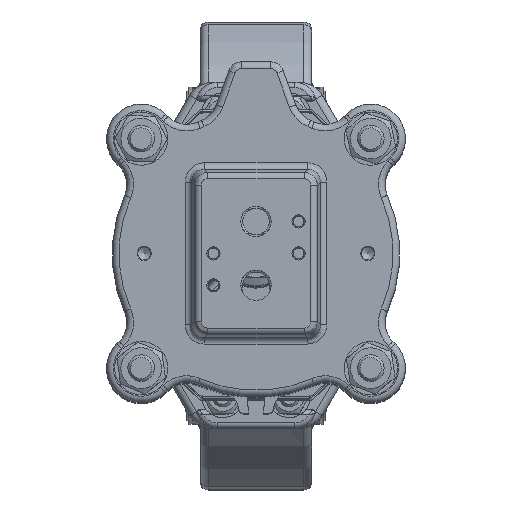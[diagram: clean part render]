
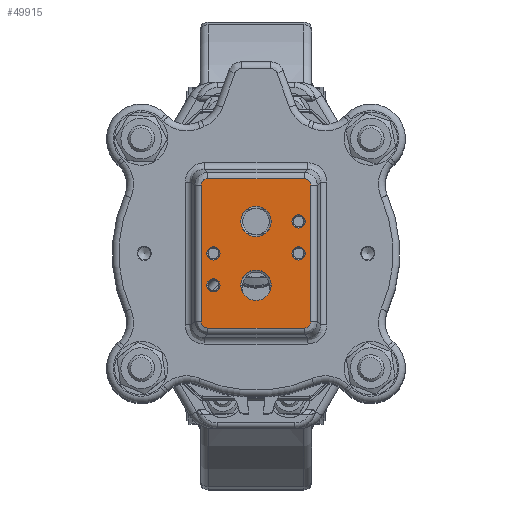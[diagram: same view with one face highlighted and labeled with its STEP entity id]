
A CAD part, top view. The second image highlights one B-rep face of the part: STEP entity #49915.
In plain terms, the highlighted planar face has unit normal (0, 0, 1).
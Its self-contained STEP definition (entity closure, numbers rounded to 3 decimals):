
#265=ELLIPSE('',#53609,2.673,2.5);
#266=ELLIPSE('',#53610,2.673,2.5);
#267=ELLIPSE('',#53611,2.673,2.5);
#268=ELLIPSE('',#53612,2.673,2.5);
#1330=FACE_BOUND('',#15067,.T.);
#1331=FACE_BOUND('',#15068,.T.);
#1332=FACE_BOUND('',#15069,.T.);
#1333=FACE_BOUND('',#15070,.T.);
#1334=FACE_BOUND('',#15071,.T.);
#1335=FACE_BOUND('',#15072,.T.);
#3273=PLANE('',#53608);
#4527=LINE('',#77597,#7776);
#4528=LINE('',#77601,#7777);
#4529=LINE('',#77605,#7778);
#4530=LINE('',#77608,#7779);
#7776=VECTOR('',#60456,10.);
#7777=VECTOR('',#60459,10.);
#7778=VECTOR('',#60462,10.);
#7779=VECTOR('',#60465,10.);
#11904=FACE_OUTER_BOUND('',#15066,.T.);
#15066=EDGE_LOOP('',(#35709,#35710,#35711,#35712,#35713,#35714,#35715,#35716));
#15067=EDGE_LOOP('',(#35717,#35718));
#15068=EDGE_LOOP('',(#35719,#35720));
#15069=EDGE_LOOP('',(#35721));
#15070=EDGE_LOOP('',(#35722));
#15071=EDGE_LOOP('',(#35723));
#15072=EDGE_LOOP('',(#35724));
#18421=CIRCLE('',#53478,5.723);
#18422=CIRCLE('',#53479,5.723);
#18424=CIRCLE('',#53482,5.723);
#18425=CIRCLE('',#53483,5.723);
#18516=CIRCLE('',#53607,2.5);
#18517=CIRCLE('',#53613,2.5);
#18518=CIRCLE('',#53614,2.5);
#18519=CIRCLE('',#53615,2.5);
#21403=VERTEX_POINT('',#76902);
#21404=VERTEX_POINT('',#76904);
#21405=VERTEX_POINT('',#76909);
#21406=VERTEX_POINT('',#76911);
#21507=VERTEX_POINT('',#77589);
#21508=VERTEX_POINT('',#77593);
#21509=VERTEX_POINT('',#77594);
#21510=VERTEX_POINT('',#77596);
#21511=VERTEX_POINT('',#77598);
#21512=VERTEX_POINT('',#77600);
#21513=VERTEX_POINT('',#77602);
#21514=VERTEX_POINT('',#77604);
#21515=VERTEX_POINT('',#77606);
#21516=VERTEX_POINT('',#77609);
#21517=VERTEX_POINT('',#77611);
#21518=VERTEX_POINT('',#77613);
#26695=EDGE_CURVE('',#21404,#21403,#18421,.T.);
#26696=EDGE_CURVE('',#21403,#21404,#18422,.T.);
#26699=EDGE_CURVE('',#21406,#21405,#18424,.T.);
#26700=EDGE_CURVE('',#21405,#21406,#18425,.T.);
#26836=EDGE_CURVE('',#21507,#21507,#18516,.T.);
#26837=EDGE_CURVE('',#21508,#21509,#265,.T.);
#26838=EDGE_CURVE('',#21510,#21508,#4527,.T.);
#26839=EDGE_CURVE('',#21511,#21510,#266,.T.);
#26840=EDGE_CURVE('',#21512,#21511,#4528,.T.);
#26841=EDGE_CURVE('',#21513,#21512,#267,.T.);
#26842=EDGE_CURVE('',#21514,#21513,#4529,.T.);
#26843=EDGE_CURVE('',#21515,#21514,#268,.T.);
#26844=EDGE_CURVE('',#21509,#21515,#4530,.T.);
#26845=EDGE_CURVE('',#21516,#21516,#18517,.T.);
#26846=EDGE_CURVE('',#21517,#21517,#18518,.T.);
#26847=EDGE_CURVE('',#21518,#21518,#18519,.T.);
#35709=ORIENTED_EDGE('',*,*,#26837,.F.);
#35710=ORIENTED_EDGE('',*,*,#26838,.F.);
#35711=ORIENTED_EDGE('',*,*,#26839,.F.);
#35712=ORIENTED_EDGE('',*,*,#26840,.F.);
#35713=ORIENTED_EDGE('',*,*,#26841,.F.);
#35714=ORIENTED_EDGE('',*,*,#26842,.F.);
#35715=ORIENTED_EDGE('',*,*,#26843,.F.);
#35716=ORIENTED_EDGE('',*,*,#26844,.F.);
#35717=ORIENTED_EDGE('',*,*,#26695,.T.);
#35718=ORIENTED_EDGE('',*,*,#26696,.T.);
#35719=ORIENTED_EDGE('',*,*,#26699,.T.);
#35720=ORIENTED_EDGE('',*,*,#26700,.T.);
#35721=ORIENTED_EDGE('',*,*,#26845,.F.);
#35722=ORIENTED_EDGE('',*,*,#26846,.F.);
#35723=ORIENTED_EDGE('',*,*,#26847,.F.);
#35724=ORIENTED_EDGE('',*,*,#26836,.F.);
#49915=ADVANCED_FACE('',(#11904,#1330,#1331,#1332,#1333,#1334,#1335),#3273,
 .F.);
#53478=AXIS2_PLACEMENT_3D('',#76905,#60164,#60165);
#53479=AXIS2_PLACEMENT_3D('',#76906,#60166,#60167);
#53482=AXIS2_PLACEMENT_3D('',#76912,#60173,#60174);
#53483=AXIS2_PLACEMENT_3D('',#76913,#60175,#60176);
#53607=AXIS2_PLACEMENT_3D('',#77591,#60450,#60451);
#53608=AXIS2_PLACEMENT_3D('',#77592,#60452,#60453);
#53609=AXIS2_PLACEMENT_3D('',#77595,#60454,#60455);
#53610=AXIS2_PLACEMENT_3D('',#77599,#60457,#60458);
#53611=AXIS2_PLACEMENT_3D('',#77603,#60460,#60461);
#53612=AXIS2_PLACEMENT_3D('',#77607,#60463,#60464);
#53613=AXIS2_PLACEMENT_3D('',#77610,#60466,#60467);
#53614=AXIS2_PLACEMENT_3D('',#77612,#60468,#60469);
#53615=AXIS2_PLACEMENT_3D('',#77614,#60470,#60471);
#60164=DIRECTION('center_axis',(0.,0.,
-1.));
#60165=DIRECTION('ref_axis',(0.,1.,0.));
#60166=DIRECTION('center_axis',(0.,0.,
-1.));
#60167=DIRECTION('ref_axis',(0.,1.,0.));
#60173=DIRECTION('center_axis',(0.,0.,
-1.));
#60174=DIRECTION('ref_axis',(0.,1.,0.));
#60175=DIRECTION('center_axis',(0.,0.,
-1.));
#60176=DIRECTION('ref_axis',(0.,1.,0.));
#60450=DIRECTION('center_axis',(0.,0.,
1.));
#60451=DIRECTION('ref_axis',(0.,-1.,0.));
#60452=DIRECTION('center_axis',(0.,0.,
-1.));
#60453=DIRECTION('ref_axis',(0.,-1.,0.));
#60454=DIRECTION('center_axis',(0.,0.,
-1.));
#60455=DIRECTION('ref_axis',(0.707,-0.707,0.));
#60456=DIRECTION('',(0.,-1.,0.));
#60457=DIRECTION('center_axis',(0.,0.,
-1.));
#60458=DIRECTION('ref_axis',(0.707,0.707,0.));
#60459=DIRECTION('',(1.,0.,0.));
#60460=DIRECTION('center_axis',(0.,0.,
-1.));
#60461=DIRECTION('ref_axis',(-0.707,0.707,0.));
#60462=DIRECTION('',(0.,1.,0.));
#60463=DIRECTION('center_axis',(0.,0.,
-1.));
#60464=DIRECTION('ref_axis',(-0.707,-0.707,0.));
#60465=DIRECTION('',(-1.,0.,0.));
#60466=DIRECTION('center_axis',(0.,0.,
1.));
#60467=DIRECTION('ref_axis',(0.,-1.,0.));
#60468=DIRECTION('center_axis',(0.,0.,
1.));
#60469=DIRECTION('ref_axis',(0.,-1.,0.));
#60470=DIRECTION('center_axis',(0.,0.,
1.));
#60471=DIRECTION('ref_axis',(0.,-1.,0.));
#76902=CARTESIAN_POINT('',(0.,-17.723,568.));
#76904=CARTESIAN_POINT('',(0.,-6.278,568.));
#76905=CARTESIAN_POINT('Origin',(0.,-12.,568.));
#76906=CARTESIAN_POINT('Origin',(0.,-12.,568.));
#76909=CARTESIAN_POINT('',(0.,6.277,568.));
#76911=CARTESIAN_POINT('',(0.,17.723,568.));
#76912=CARTESIAN_POINT('Origin',(0.,12.,568.));
#76913=CARTESIAN_POINT('Origin',(0.,12.,568.));
#77589=CARTESIAN_POINT('',(-16.,-9.5,568.));
#77591=CARTESIAN_POINT('Origin',(-16.,-12.,568.));
#77592=CARTESIAN_POINT('Origin',(0.,0.,
568.));
#77593=CARTESIAN_POINT('',(20.582,-25.667,568.));
#77594=CARTESIAN_POINT('',(18.167,-28.082,568.));
#77595=CARTESIAN_POINT('Origin',(17.993,-25.493,568.));
#77596=CARTESIAN_POINT('',(20.582,25.667,568.));
#77597=CARTESIAN_POINT('',(20.582,-15.,568.));
#77598=CARTESIAN_POINT('',(18.167,28.082,568.));
#77599=CARTESIAN_POINT('Origin',(17.993,25.493,568.));
#77600=CARTESIAN_POINT('',(-18.167,28.082,568.));
#77601=CARTESIAN_POINT('',(11.25,28.082,568.));
#77602=CARTESIAN_POINT('',(-20.582,25.667,568.));
#77603=CARTESIAN_POINT('Origin',(-17.993,25.493,568.));
#77604=CARTESIAN_POINT('',(-20.582,-25.667,568.));
#77605=CARTESIAN_POINT('',(-20.582,15.,568.));
#77606=CARTESIAN_POINT('',(-18.167,-28.082,568.));
#77607=CARTESIAN_POINT('Origin',(-17.993,-25.493,568.));
#77608=CARTESIAN_POINT('',(-11.25,-28.082,568.));
#77609=CARTESIAN_POINT('',(-16.,2.5,568.));
#77610=CARTESIAN_POINT('Origin',(-16.,0.,
568.));
#77611=CARTESIAN_POINT('',(16.,14.5,568.));
#77612=CARTESIAN_POINT('Origin',(16.,12.,568.));
#77613=CARTESIAN_POINT('',(16.,2.5,568.));
#77614=CARTESIAN_POINT('Origin',(16.,0.,
568.));
